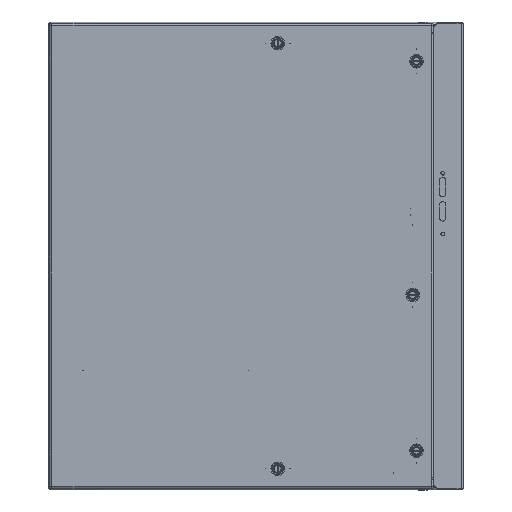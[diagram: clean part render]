
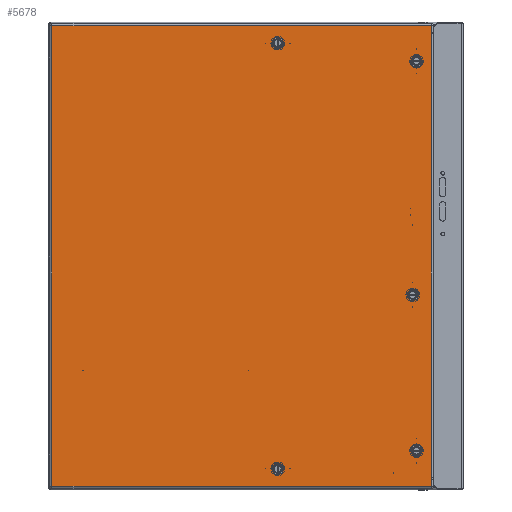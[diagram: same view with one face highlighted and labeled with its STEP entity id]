
A CAD part, top view. The second image highlights one B-rep face of the part: STEP entity #5678.
In plain terms, the highlighted planar face has unit normal (0, 0, 1).
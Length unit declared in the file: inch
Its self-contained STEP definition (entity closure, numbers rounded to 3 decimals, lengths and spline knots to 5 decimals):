
#645 = ORIENTED_EDGE ( 'NONE', *, *, #35614, .F. ) ;
#1016 = DIRECTION ( 'NONE',  ( 0., 0., 1. ) ) ;
#2027 = ORIENTED_EDGE ( 'NONE', *, *, #104738, .F. ) ;
#2732 = VERTEX_POINT ( 'NONE', #83684 ) ;
#3251 = CARTESIAN_POINT ( 'NONE',  ( 12.813, -15., 0.069 ) ) ;
#3322 = VERTEX_POINT ( 'NONE', #58061 ) ;
#3523 = FACE_BOUND ( 'NONE', #81806, .T. ) ;
#4141 = DIRECTION ( 'NONE',  ( 0., 0., 1. ) ) ;
#4333 = DIRECTION ( 'NONE',  ( 1., 0., 0. ) ) ;
#4904 = EDGE_CURVE ( 'NONE', #3322, #32991, #31371, .T. ) ;
#5678 = ADVANCED_FACE ( 'NONE', ( #48474, #3523, #93435, #96086, #90794, #68270 ), #16473, .F. ) ;
#6349 = ORIENTED_EDGE ( 'NONE', *, *, #104609, .T. ) ;
#7253 = AXIS2_PLACEMENT_3D ( 'NONE', #67126, #75642, #24974 ) ;
#7544 = CARTESIAN_POINT ( 'NONE',  ( 12.368, -15., 0.069 ) ) ;
#8210 = CARTESIAN_POINT ( 'NONE',  ( -15.715, -17.733, 0.069 ) ) ;
#8407 = EDGE_CURVE ( 'NONE', #9967, #32138, #80099, .T. ) ;
#8913 = VECTOR ( 'NONE', #67329, 39.37008 ) ;
#9967 = VERTEX_POINT ( 'NONE', #3251 ) ;
#10650 = LINE ( 'NONE', #98235, #30424 ) ;
#10699 = VERTEX_POINT ( 'NONE', #91732 ) ;
#12799 = CARTESIAN_POINT ( 'NONE',  ( 1.673, -16.392, 0.069 ) ) ;
#12829 = ORIENTED_EDGE ( 'NONE', *, *, #8407, .F. ) ;
#13277 = CARTESIAN_POINT ( 'NONE',  ( 11.923, -15., 0.069 ) ) ;
#14536 = CIRCLE ( 'NONE', #31797, 0.445 ) ;
#15685 = VECTOR ( 'NONE', #43485, 39.37008 ) ;
#16005 = DIRECTION ( 'NONE',  ( 1., 0., 0. ) ) ;
#16473 = PLANE ( 'NONE',  #7253 ) ;
#18211 = VERTEX_POINT ( 'NONE', #95948 ) ;
#19571 = ORIENTED_EDGE ( 'NONE', *, *, #50186, .T. ) ;
#21256 = DIRECTION ( 'NONE',  ( 1., 0., 0. ) ) ;
#21721 = CIRCLE ( 'NONE', #101984, 0.445 ) ;
#22133 = EDGE_LOOP ( 'NONE', ( #12829, #31245 ) ) ;
#22226 = ORIENTED_EDGE ( 'NONE', *, *, #4904, .T. ) ;
#22496 = CARTESIAN_POINT ( 'NONE',  ( 13.494, 17.733, 0.069 ) ) ;
#22668 = VERTEX_POINT ( 'NONE', #43951 ) ;
#24301 = CARTESIAN_POINT ( 'NONE',  ( 2.118, -16.392, 0.069 ) ) ;
#24974 = DIRECTION ( 'NONE',  ( -1., 0., 0. ) ) ;
#26923 = DIRECTION ( 'NONE',  ( 0., 0., 1. ) ) ;
#27162 = CARTESIAN_POINT ( 'NONE',  ( 12.368, 15., 0.069 ) ) ;
#27351 = CIRCLE ( 'NONE', #63551, 0.445 ) ;
#28445 = EDGE_CURVE ( 'NONE', #32138, #9967, #92425, .T. ) ;
#28477 = ORIENTED_EDGE ( 'NONE', *, *, #106183, .F. ) ;
#30226 = CIRCLE ( 'NONE', #54963, 0.445 ) ;
#30424 = VECTOR ( 'NONE', #106738, 39.37008 ) ;
#31245 = ORIENTED_EDGE ( 'NONE', *, *, #28445, .F. ) ;
#31371 = LINE ( 'NONE', #8210, #8913 ) ;
#31797 = AXIS2_PLACEMENT_3D ( 'NONE', #86427, #35779, #94935 ) ;
#32138 = VERTEX_POINT ( 'NONE', #13277 ) ;
#32167 = VERTEX_POINT ( 'NONE', #89417 ) ;
#32991 = VERTEX_POINT ( 'NONE', #65185 ) ;
#34218 = VERTEX_POINT ( 'NONE', #78625 ) ;
#35614 = EDGE_CURVE ( 'NONE', #18211, #75580, #95542, .T. ) ;
#35706 = DIRECTION ( 'NONE',  ( 1., 0., 0. ) ) ;
#35779 = DIRECTION ( 'NONE',  ( 0., 0., 1. ) ) ;
#38191 = LINE ( 'NONE', #51994, #15685 ) ;
#40356 = ORIENTED_EDGE ( 'NONE', *, *, #70742, .F. ) ;
#41135 = LINE ( 'NONE', #22496, #86137 ) ;
#41558 = AXIS2_PLACEMENT_3D ( 'NONE', #105582, #54959, #4333 ) ;
#42178 = DIRECTION ( 'NONE',  ( 0., 0., 1. ) ) ;
#43141 = ORIENTED_EDGE ( 'NONE', *, *, #47623, .F. ) ;
#43485 = DIRECTION ( 'NONE',  ( 0., -1., 0. ) ) ;
#43951 = CARTESIAN_POINT ( 'NONE',  ( 11.628, -3., 0.069 ) ) ;
#47623 = EDGE_CURVE ( 'NONE', #22668, #10699, #14536, .T. ) ;
#48474 = FACE_BOUND ( 'NONE', #72445, .T. ) ;
#48717 = CARTESIAN_POINT ( 'NONE',  ( 12.368, 15., 0.069 ) ) ;
#50186 = EDGE_CURVE ( 'NONE', #32991, #84293, #41135, .T. ) ;
#51133 = ORIENTED_EDGE ( 'NONE', *, *, #59407, .F. ) ;
#51662 = CARTESIAN_POINT ( 'NONE',  ( 1.673, 16.392, 0.069 ) ) ;
#51887 = CIRCLE ( 'NONE', #95075, 0.445 ) ;
#51994 = CARTESIAN_POINT ( 'NONE',  ( -15.715, 17.733, 0.069 ) ) ;
#52761 = EDGE_LOOP ( 'NONE', ( #22226, #19571, #73808, #6349 ) ) ;
#54748 = CARTESIAN_POINT ( 'NONE',  ( 12.368, -15., 0.069 ) ) ;
#54959 = DIRECTION ( 'NONE',  ( 0., 0., 1. ) ) ;
#54963 = AXIS2_PLACEMENT_3D ( 'NONE', #12799, #71923, #21256 ) ;
#55376 = EDGE_LOOP ( 'NONE', ( #51133, #43141 ) ) ;
#57185 = DIRECTION ( 'NONE',  ( 1., 0., 0. ) ) ;
#58061 = CARTESIAN_POINT ( 'NONE',  ( -15.715, -17.733, 0.069 ) ) ;
#59407 = EDGE_CURVE ( 'NONE', #10699, #22668, #65035, .T. ) ;
#60117 = DIRECTION ( 'NONE',  ( 1., 0., 0. ) ) ;
#60224 = ORIENTED_EDGE ( 'NONE', *, *, #101468, .F. ) ;
#61896 = CARTESIAN_POINT ( 'NONE',  ( 11.923, 15., 0.069 ) ) ;
#63258 = DIRECTION ( 'NONE',  ( 1., 0., 0. ) ) ;
#63551 = AXIS2_PLACEMENT_3D ( 'NONE', #48717, #107816, #57185 ) ;
#65035 = CIRCLE ( 'NONE', #67917, 0.445 ) ;
#65185 = CARTESIAN_POINT ( 'NONE',  ( 13.494, -17.733, 0.069 ) ) ;
#66625 = DIRECTION ( 'NONE',  ( 0., 0., 1. ) ) ;
#67126 = CARTESIAN_POINT ( 'NONE',  ( 13.494, -17.733, 0.069 ) ) ;
#67329 = DIRECTION ( 'NONE',  ( 1., 0., 0. ) ) ;
#67908 = CARTESIAN_POINT ( 'NONE',  ( 13.494, 17.733, 0.069 ) ) ;
#67917 = AXIS2_PLACEMENT_3D ( 'NONE', #92818, #42178, #101279 ) ;
#68270 = FACE_OUTER_BOUND ( 'NONE', #52761, .T. ) ;
#70742 = EDGE_CURVE ( 'NONE', #32167, #34218, #74012, .T. ) ;
#71923 = DIRECTION ( 'NONE',  ( 0., 0., 1. ) ) ;
#72445 = EDGE_LOOP ( 'NONE', ( #28477, #93301 ) ) ;
#73808 = ORIENTED_EDGE ( 'NONE', *, *, #103284, .T. ) ;
#74012 = CIRCLE ( 'NONE', #101068, 0.445 ) ;
#75580 = VERTEX_POINT ( 'NONE', #24301 ) ;
#75642 = DIRECTION ( 'NONE',  ( 0., 0., -1. ) ) ;
#75991 = VERTEX_POINT ( 'NONE', #95979 ) ;
#77619 = CARTESIAN_POINT ( 'NONE',  ( 1.673, 16.392, 0.069 ) ) ;
#77896 = VERTEX_POINT ( 'NONE', #61896 ) ;
#78067 = AXIS2_PLACEMENT_3D ( 'NONE', #54748, #4141, #63258 ) ;
#78625 = CARTESIAN_POINT ( 'NONE',  ( 1.228, 16.392, 0.069 ) ) ;
#80099 = CIRCLE ( 'NONE', #84685, 0.445 ) ;
#81695 = DIRECTION ( 'NONE',  ( 0., 1., 0. ) ) ;
#81806 = EDGE_LOOP ( 'NONE', ( #40356, #60224 ) ) ;
#83684 = CARTESIAN_POINT ( 'NONE',  ( -15.715, 17.733, 0.069 ) ) ;
#84293 = VERTEX_POINT ( 'NONE', #67908 ) ;
#84685 = AXIS2_PLACEMENT_3D ( 'NONE', #7544, #66625, #16005 ) ;
#86094 = DIRECTION ( 'NONE',  ( 1., 0., 0. ) ) ;
#86137 = VECTOR ( 'NONE', #81695, 39.37008 ) ;
#86341 = DIRECTION ( 'NONE',  ( 0., 0., 1. ) ) ;
#86427 = CARTESIAN_POINT ( 'NONE',  ( 12.073, -3., 0.069 ) ) ;
#88370 = EDGE_LOOP ( 'NONE', ( #2027, #645 ) ) ;
#89417 = CARTESIAN_POINT ( 'NONE',  ( 2.118, 16.392, 0.069 ) ) ;
#90794 = FACE_BOUND ( 'NONE', #55376, .T. ) ;
#91732 = CARTESIAN_POINT ( 'NONE',  ( 12.518, -3., 0.069 ) ) ;
#92425 = CIRCLE ( 'NONE', #78067, 0.445 ) ;
#92818 = CARTESIAN_POINT ( 'NONE',  ( 12.073, -3., 0.069 ) ) ;
#93301 = ORIENTED_EDGE ( 'NONE', *, *, #99362, .F. ) ;
#93435 = FACE_BOUND ( 'NONE', #88370, .T. ) ;
#94935 = DIRECTION ( 'NONE',  ( 1., 0., 0. ) ) ;
#95075 = AXIS2_PLACEMENT_3D ( 'NONE', #77619, #26923, #86094 ) ;
#95542 = CIRCLE ( 'NONE', #41558, 0.445 ) ;
#95948 = CARTESIAN_POINT ( 'NONE',  ( 1.228, -16.392, 0.069 ) ) ;
#95979 = CARTESIAN_POINT ( 'NONE',  ( 12.813, 15., 0.069 ) ) ;
#96086 = FACE_BOUND ( 'NONE', #22133, .T. ) ;
#98235 = CARTESIAN_POINT ( 'NONE',  ( -15.715, 17.733, 0.069 ) ) ;
#99362 = EDGE_CURVE ( 'NONE', #77896, #75991, #21721, .T. ) ;
#101068 = AXIS2_PLACEMENT_3D ( 'NONE', #51662, #1016, #60117 ) ;
#101279 = DIRECTION ( 'NONE',  ( 1., 0., 0. ) ) ;
#101468 = EDGE_CURVE ( 'NONE', #34218, #32167, #51887, .T. ) ;
#101984 = AXIS2_PLACEMENT_3D ( 'NONE', #27162, #86341, #35706 ) ;
#103284 = EDGE_CURVE ( 'NONE', #84293, #2732, #10650, .T. ) ;
#104609 = EDGE_CURVE ( 'NONE', #2732, #3322, #38191, .T. ) ;
#104738 = EDGE_CURVE ( 'NONE', #75580, #18211, #30226, .T. ) ;
#105582 = CARTESIAN_POINT ( 'NONE',  ( 1.673, -16.392, 0.069 ) ) ;
#106183 = EDGE_CURVE ( 'NONE', #75991, #77896, #27351, .T. ) ;
#106738 = DIRECTION ( 'NONE',  ( -1., 0., 0. ) ) ;
#107816 = DIRECTION ( 'NONE',  ( 0., 0., 1. ) ) ;
